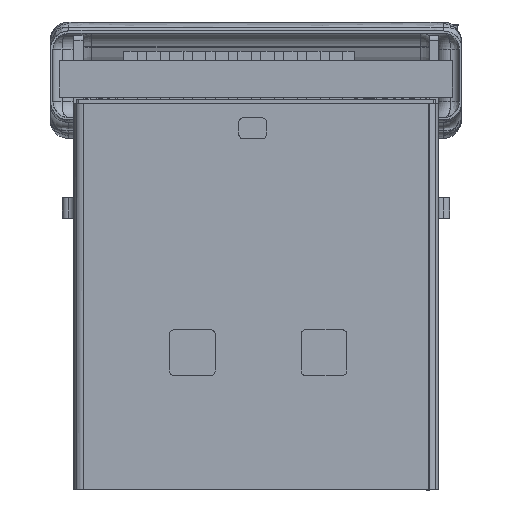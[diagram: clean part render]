
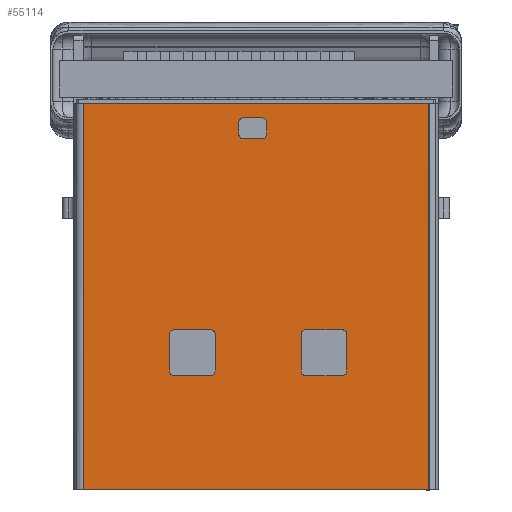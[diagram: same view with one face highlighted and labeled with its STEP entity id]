
A CAD part, front view. The second image highlights one B-rep face of the part: STEP entity #55114.
In plain terms, the highlighted planar face has unit normal (0, -1, 0) as drawn and (0, 0, 1) by its records, which use the part's own axes.
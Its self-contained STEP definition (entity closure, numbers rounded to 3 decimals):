
#48732 = VERTEX_POINT('',#48733);
#48733 = CARTESIAN_POINT('',(-11.75,11.89,0.));
#48739 = EDGE_CURVE('',#48740,#48732,#48742,.T.);
#48740 = VERTEX_POINT('',#48741);
#48741 = CARTESIAN_POINT('',(-11.95,11.69,0.));
#48742 = CIRCLE('',#48743,0.2);
#48743 = AXIS2_PLACEMENT_3D('',#48744,#48745,#48746);
#48744 = CARTESIAN_POINT('',(-11.75,11.69,0.));
#48745 = DIRECTION('',(0.,0.,-1.));
#48746 = DIRECTION('',(-1.,0.,0.));
#48774 = VERTEX_POINT('',#48775);
#48775 = CARTESIAN_POINT('',(-9.95,11.69,0.));
#48781 = EDGE_CURVE('',#48782,#48774,#48784,.T.);
#48782 = VERTEX_POINT('',#48783);
#48783 = CARTESIAN_POINT('',(-10.15,11.89,0.));
#48784 = CIRCLE('',#48785,0.2);
#48785 = AXIS2_PLACEMENT_3D('',#48786,#48787,#48788);
#48786 = CARTESIAN_POINT('',(-10.15,11.69,0.));
#48787 = DIRECTION('',(0.,0.,-1.));
#48788 = DIRECTION('',(-1.,0.,0.));
#48816 = VERTEX_POINT('',#48817);
#48817 = CARTESIAN_POINT('',(-10.15,9.89,0.));
#48823 = EDGE_CURVE('',#48824,#48816,#48826,.T.);
#48824 = VERTEX_POINT('',#48825);
#48825 = CARTESIAN_POINT('',(-9.95,10.09,0.));
#48826 = CIRCLE('',#48827,0.2);
#48827 = AXIS2_PLACEMENT_3D('',#48828,#48829,#48830);
#48828 = CARTESIAN_POINT('',(-10.15,10.09,0.));
#48829 = DIRECTION('',(0.,0.,-1.));
#48830 = DIRECTION('',(-1.,0.,0.));
#48849 = VERTEX_POINT('',#48850);
#48850 = CARTESIAN_POINT('',(-11.75,9.89,0.));
#48856 = EDGE_CURVE('',#48849,#48857,#48859,.T.);
#48857 = VERTEX_POINT('',#48858);
#48858 = CARTESIAN_POINT('',(-11.95,10.09,0.));
#48859 = CIRCLE('',#48860,0.2);
#48860 = AXIS2_PLACEMENT_3D('',#48861,#48862,#48863);
#48861 = CARTESIAN_POINT('',(-11.75,10.09,0.));
#48862 = DIRECTION('',(0.,0.,-1.));
#48863 = DIRECTION('',(-1.,0.,0.));
#48891 = VERTEX_POINT('',#48892);
#48892 = CARTESIAN_POINT('',(-5.99,9.89,0.));
#48898 = EDGE_CURVE('',#48891,#48899,#48901,.T.);
#48899 = VERTEX_POINT('',#48900);
#48900 = CARTESIAN_POINT('',(-6.19,10.09,0.));
#48901 = CIRCLE('',#48902,0.2);
#48902 = AXIS2_PLACEMENT_3D('',#48903,#48904,#48905);
#48903 = CARTESIAN_POINT('',(-5.99,10.09,0.));
#48904 = DIRECTION('',(0.,0.,-1.));
#48905 = DIRECTION('',(-1.,0.,0.));
#48942 = VERTEX_POINT('',#48943);
#48943 = CARTESIAN_POINT('',(-4.39,9.89,0.));
#48949 = EDGE_CURVE('',#48950,#48942,#48952,.T.);
#48950 = VERTEX_POINT('',#48951);
#48951 = CARTESIAN_POINT('',(-4.19,10.09,0.));
#48952 = CIRCLE('',#48953,0.2);
#48953 = AXIS2_PLACEMENT_3D('',#48954,#48955,#48956);
#48954 = CARTESIAN_POINT('',(-4.39,10.09,0.));
#48955 = DIRECTION('',(0.,0.,-1.));
#48956 = DIRECTION('',(-1.,0.,0.));
#48984 = VERTEX_POINT('',#48985);
#48985 = CARTESIAN_POINT('',(-4.19,11.69,0.));
#48991 = EDGE_CURVE('',#48992,#48984,#48994,.T.);
#48992 = VERTEX_POINT('',#48993);
#48993 = CARTESIAN_POINT('',(-4.39,11.89,0.));
#48994 = CIRCLE('',#48995,0.2);
#48995 = AXIS2_PLACEMENT_3D('',#48996,#48997,#48998);
#48996 = CARTESIAN_POINT('',(-4.39,11.69,0.));
#48997 = DIRECTION('',(0.,0.,-1.));
#48998 = DIRECTION('',(-1.,0.,0.));
#49026 = VERTEX_POINT('',#49027);
#49027 = CARTESIAN_POINT('',(-5.99,11.89,0.));
#49033 = EDGE_CURVE('',#49034,#49026,#49036,.T.);
#49034 = VERTEX_POINT('',#49035);
#49035 = CARTESIAN_POINT('',(-6.19,11.69,0.));
#49036 = CIRCLE('',#49037,0.2);
#49037 = AXIS2_PLACEMENT_3D('',#49038,#49039,#49040);
#49038 = CARTESIAN_POINT('',(-5.99,11.69,0.));
#49039 = DIRECTION('',(0.,0.,-1.));
#49040 = DIRECTION('',(-1.,0.,0.));
#49068 = VERTEX_POINT('',#49069);
#49069 = CARTESIAN_POINT('',(-8.234,1.523,0.));
#49075 = EDGE_CURVE('',#49076,#49068,#49078,.T.);
#49076 = VERTEX_POINT('',#49077);
#49077 = CARTESIAN_POINT('',(-8.434,1.323,0.));
#49078 = CIRCLE('',#49079,0.2);
#49079 = AXIS2_PLACEMENT_3D('',#49080,#49081,#49082);
#49080 = CARTESIAN_POINT('',(-8.234,1.323,
    0.));
#49081 = DIRECTION('',(0.,0.,-1.));
#49082 = DIRECTION('',(-1.,0.,0.));
#49101 = VERTEX_POINT('',#49102);
#49102 = CARTESIAN_POINT('',(-8.234,0.605,0.));
#49108 = EDGE_CURVE('',#49101,#49109,#49111,.T.);
#49109 = VERTEX_POINT('',#49110);
#49110 = CARTESIAN_POINT('',(-8.434,0.805,0.));
#49111 = CIRCLE('',#49112,0.2);
#49112 = AXIS2_PLACEMENT_3D('',#49113,#49114,#49115);
#49113 = CARTESIAN_POINT('',(-8.234,0.805,
    0.));
#49114 = DIRECTION('',(0.,0.,-1.));
#49115 = DIRECTION('',(-1.,0.,0.));
#49152 = VERTEX_POINT('',#49153);
#49153 = CARTESIAN_POINT('',(-7.419,0.605,0.));
#49159 = EDGE_CURVE('',#49160,#49152,#49162,.T.);
#49160 = VERTEX_POINT('',#49161);
#49161 = CARTESIAN_POINT('',(-7.219,0.805,0.));
#49162 = CIRCLE('',#49163,0.2);
#49163 = AXIS2_PLACEMENT_3D('',#49164,#49165,#49166);
#49164 = CARTESIAN_POINT('',(-7.419,0.805,
    0.));
#49165 = DIRECTION('',(0.,0.,-1.));
#49166 = DIRECTION('',(-1.,0.,0.));
#49194 = VERTEX_POINT('',#49195);
#49195 = CARTESIAN_POINT('',(-7.219,1.323,0.));
#49201 = EDGE_CURVE('',#49202,#49194,#49204,.T.);
#49202 = VERTEX_POINT('',#49203);
#49203 = CARTESIAN_POINT('',(-7.419,1.523,0.));
#49204 = CIRCLE('',#49205,0.2);
#49205 = AXIS2_PLACEMENT_3D('',#49206,#49207,#49208);
#49206 = CARTESIAN_POINT('',(-7.419,1.323,
    0.));
#49207 = DIRECTION('',(0.,0.,-1.));
#49208 = DIRECTION('',(-1.,0.,0.));
#49231 = EDGE_CURVE('',#48849,#48816,#49232,.T.);
#49232 = LINE('',#49233,#49234);
#49233 = CARTESIAN_POINT('',(-9.95,9.89,0.));
#49234 = VECTOR('',#49235,1.);
#49235 = DIRECTION('',(1.,0.,0.));
#49253 = EDGE_CURVE('',#48824,#48774,#49254,.T.);
#49254 = LINE('',#49255,#49256);
#49255 = CARTESIAN_POINT('',(-9.95,11.89,0.));
#49256 = VECTOR('',#49257,1.);
#49257 = DIRECTION('',(0.,1.,0.));
#49275 = EDGE_CURVE('',#48782,#48732,#49276,.T.);
#49276 = LINE('',#49277,#49278);
#49277 = CARTESIAN_POINT('',(-11.95,11.89,0.));
#49278 = VECTOR('',#49279,1.);
#49279 = DIRECTION('',(-1.,0.,0.));
#49290 = EDGE_CURVE('',#48740,#48857,#49291,.T.);
#49291 = LINE('',#49292,#49293);
#49292 = CARTESIAN_POINT('',(-11.95,9.89,0.));
#49293 = VECTOR('',#49294,1.);
#49294 = DIRECTION('',(0.,-1.,0.));
#49312 = EDGE_CURVE('',#48891,#48942,#49313,.T.);
#49313 = LINE('',#49314,#49315);
#49314 = CARTESIAN_POINT('',(-4.19,9.89,0.));
#49315 = VECTOR('',#49316,1.);
#49316 = DIRECTION('',(1.,0.,0.));
#49334 = EDGE_CURVE('',#48950,#48984,#49335,.T.);
#49335 = LINE('',#49336,#49337);
#49336 = CARTESIAN_POINT('',(-4.19,11.89,0.));
#49337 = VECTOR('',#49338,1.);
#49338 = DIRECTION('',(0.,1.,0.));
#49356 = EDGE_CURVE('',#48992,#49026,#49357,.T.);
#49357 = LINE('',#49358,#49359);
#49358 = CARTESIAN_POINT('',(-6.19,11.89,0.));
#49359 = VECTOR('',#49360,1.);
#49360 = DIRECTION('',(-1.,0.,0.));
#49385 = EDGE_CURVE('',#49034,#48899,#49386,.T.);
#49386 = LINE('',#49387,#49388);
#49387 = CARTESIAN_POINT('',(-6.19,9.89,0.));
#49388 = VECTOR('',#49389,1.);
#49389 = DIRECTION('',(0.,-1.,0.));
#49400 = EDGE_CURVE('',#49101,#49152,#49401,.T.);
#49401 = LINE('',#49402,#49403);
#49402 = CARTESIAN_POINT('',(-8.434,0.605,0.));
#49403 = VECTOR('',#49404,1.);
#49404 = DIRECTION('',(1.,0.,0.));
#49422 = EDGE_CURVE('',#49160,#49194,#49423,.T.);
#49423 = LINE('',#49424,#49425);
#49424 = CARTESIAN_POINT('',(-7.219,1.523,0.));
#49425 = VECTOR('',#49426,1.);
#49426 = DIRECTION('',(0.,1.,0.));
#49451 = EDGE_CURVE('',#49202,#49068,#49452,.T.);
#49452 = LINE('',#49453,#49454);
#49453 = CARTESIAN_POINT('',(-8.434,1.523,0.));
#49454 = VECTOR('',#49455,1.);
#49455 = DIRECTION('',(-1.,0.,0.));
#49466 = EDGE_CURVE('',#49076,#49109,#49467,.T.);
#49467 = LINE('',#49468,#49469);
#49468 = CARTESIAN_POINT('',(-8.434,1.523,0.));
#49469 = VECTOR('',#49470,1.);
#49470 = DIRECTION('',(0.,-1.,0.));
#49506 = VERTEX_POINT('',#49507);
#49507 = CARTESIAN_POINT('',(-15.55,0.,0.));
#49514 = EDGE_CURVE('',#49515,#49506,#49517,.T.);
#49515 = VERTEX_POINT('',#49516);
#49516 = CARTESIAN_POINT('',(-15.55,16.9,0.));
#49517 = LINE('',#49518,#49519);
#49518 = CARTESIAN_POINT('',(-15.55,16.9,0.));
#49519 = VECTOR('',#49520,1.);
#49520 = DIRECTION('',(0.,-1.,0.));
#49597 = VERTEX_POINT('',#49598);
#49598 = CARTESIAN_POINT('',(-0.4,16.9,0.));
#49605 = EDGE_CURVE('',#49606,#49597,#49608,.T.);
#49606 = VERTEX_POINT('',#49607);
#49607 = CARTESIAN_POINT('',(-0.4,0.,0.));
#49608 = LINE('',#49609,#49610);
#49609 = CARTESIAN_POINT('',(-0.4,16.9,0.));
#49610 = VECTOR('',#49611,1.);
#49611 = DIRECTION('',(0.,1.,0.));
#55114 = ADVANCED_FACE('',(#55115,#55125,#55135,#55145),#55161,.F.);
#55115 = FACE_BOUND('',#55116,.T.);
#55116 = EDGE_LOOP('',(#55117,#55118,#55119,#55120,#55121,#55122,#55123,
    #55124));
#55117 = ORIENTED_EDGE('',*,*,#49400,.F.);
#55118 = ORIENTED_EDGE('',*,*,#49108,.T.);
#55119 = ORIENTED_EDGE('',*,*,#49466,.F.);
#55120 = ORIENTED_EDGE('',*,*,#49075,.T.);
#55121 = ORIENTED_EDGE('',*,*,#49451,.F.);
#55122 = ORIENTED_EDGE('',*,*,#49201,.T.);
#55123 = ORIENTED_EDGE('',*,*,#49422,.F.);
#55124 = ORIENTED_EDGE('',*,*,#49159,.T.);
#55125 = FACE_BOUND('',#55126,.T.);
#55126 = EDGE_LOOP('',(#55127,#55128,#55129,#55130,#55131,#55132,#55133,
    #55134));
#55127 = ORIENTED_EDGE('',*,*,#49312,.F.);
#55128 = ORIENTED_EDGE('',*,*,#48898,.T.);
#55129 = ORIENTED_EDGE('',*,*,#49385,.F.);
#55130 = ORIENTED_EDGE('',*,*,#49033,.T.);
#55131 = ORIENTED_EDGE('',*,*,#49356,.F.);
#55132 = ORIENTED_EDGE('',*,*,#48991,.T.);
#55133 = ORIENTED_EDGE('',*,*,#49334,.F.);
#55134 = ORIENTED_EDGE('',*,*,#48949,.T.);
#55135 = FACE_BOUND('',#55136,.T.);
#55136 = EDGE_LOOP('',(#55137,#55138,#55139,#55140,#55141,#55142,#55143,
    #55144));
#55137 = ORIENTED_EDGE('',*,*,#49231,.F.);
#55138 = ORIENTED_EDGE('',*,*,#48856,.T.);
#55139 = ORIENTED_EDGE('',*,*,#49290,.F.);
#55140 = ORIENTED_EDGE('',*,*,#48739,.T.);
#55141 = ORIENTED_EDGE('',*,*,#49275,.F.);
#55142 = ORIENTED_EDGE('',*,*,#48781,.T.);
#55143 = ORIENTED_EDGE('',*,*,#49253,.F.);
#55144 = ORIENTED_EDGE('',*,*,#48823,.T.);
#55145 = FACE_BOUND('',#55146,.T.);
#55146 = EDGE_LOOP('',(#55147,#55153,#55154,#55160));
#55147 = ORIENTED_EDGE('',*,*,#55148,.T.);
#55148 = EDGE_CURVE('',#49506,#49606,#55149,.T.);
#55149 = LINE('',#55150,#55151);
#55150 = CARTESIAN_POINT('',(0.,0.,0.));
#55151 = VECTOR('',#55152,1.);
#55152 = DIRECTION('',(1.,0.,0.));
#55153 = ORIENTED_EDGE('',*,*,#49605,.T.);
#55154 = ORIENTED_EDGE('',*,*,#55155,.F.);
#55155 = EDGE_CURVE('',#49515,#49597,#55156,.T.);
#55156 = LINE('',#55157,#55158);
#55157 = CARTESIAN_POINT('',(0.,16.9,0.));
#55158 = VECTOR('',#55159,1.);
#55159 = DIRECTION('',(1.,0.,0.));
#55160 = ORIENTED_EDGE('',*,*,#49514,.T.);
#55161 = PLANE('',#55162);
#55162 = AXIS2_PLACEMENT_3D('',#55163,#55164,#55165);
#55163 = CARTESIAN_POINT('',(0.,16.9,0.));
#55164 = DIRECTION('',(0.,0.,-1.));
#55165 = DIRECTION('',(-1.,0.,0.));
